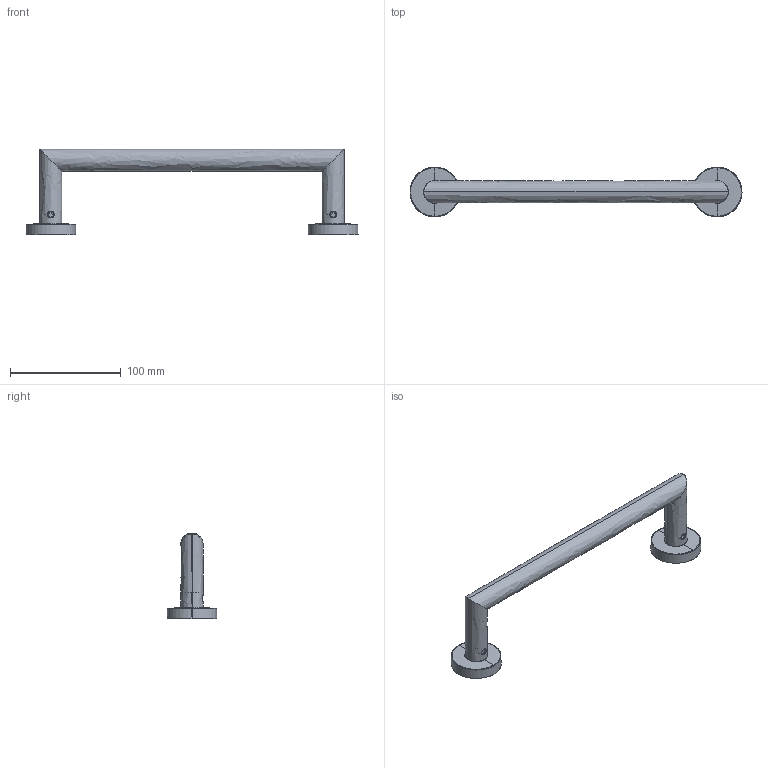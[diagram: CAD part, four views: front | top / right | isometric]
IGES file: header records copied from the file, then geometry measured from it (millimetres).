
Start section: SolidWorks IGES file using analytic representation for surfaces
Global section: file name: G:\Projects\New project\For Marketing\IGS\IGS\2015-11-27\331030002VW.IGS; native system: SolidWorks 2010; preprocessor: SolidWorks 2010; author: weijuan; date: 151127.120736; units: millimetre
Bounding box: 300 x 45 x 77.5 mm (x, y, z)
Surface area: 44109.1 mm2 (no closed solid volume)
Topology: 0 solids, 0 shells, 238 faces, 3072 edges, 3070 vertices
Faces by surface type: bspline 154, revolution 84
